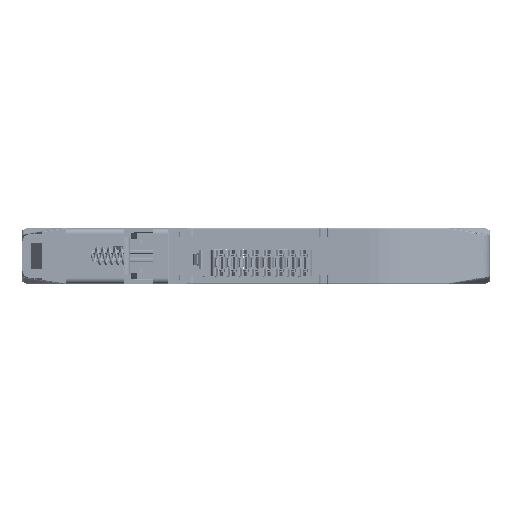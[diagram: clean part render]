
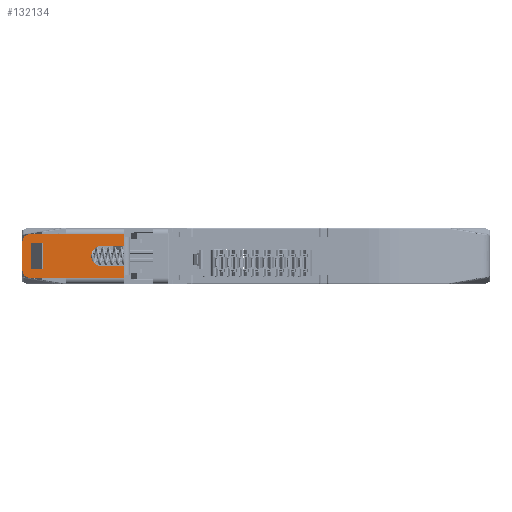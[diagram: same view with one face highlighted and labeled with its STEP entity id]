
A CAD part, front view. The second image highlights one B-rep face of the part: STEP entity #132134.
In plain terms, the highlighted planar face has unit normal (0, -1, 0) as drawn and (0, 0, -1) by its records, which use the part's own axes.
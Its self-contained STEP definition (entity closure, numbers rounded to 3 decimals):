
#130355=DIRECTION('',(-1.,0.,0.));
#130356=VECTOR('',#130355,2.6);
#130357=CARTESIAN_POINT('',(4.4,8.7,0.));
#130358=LINE('',#130357,#130356);
#130359=DIRECTION('',(0.,1.,0.));
#130360=VECTOR('',#130359,5.6);
#130361=CARTESIAN_POINT('',(4.4,3.1,0.));
#130362=LINE('',#130361,#130360);
#130363=DIRECTION('',(1.,0.,0.));
#130364=VECTOR('',#130363,2.6);
#130365=CARTESIAN_POINT('',(1.8,3.1,0.));
#130366=LINE('',#130365,#130364);
#130367=DIRECTION('',(0.,-1.,0.));
#130368=VECTOR('',#130367,5.6);
#130369=CARTESIAN_POINT('',(1.8,8.7,0.));
#130370=LINE('',#130369,#130368);
#130379=DIRECTION('',(0.,1.,0.));
#130380=VECTOR('',#130379,0.15);
#130381=CARTESIAN_POINT('',(21.7,1.2,0.));
#130382=LINE('',#130381,#130380);
#130383=DIRECTION('',(1.,0.,0.));
#130384=VECTOR('',#130383,4.8);
#130385=CARTESIAN_POINT('',(16.9,3.7,0.));
#130386=LINE('',#130385,#130384);
#130387=CARTESIAN_POINT('',(16.9,5.9,0.));
#130388=DIRECTION('',(0.,0.,1.));
#130389=DIRECTION('',(0.,1.,0.));
#130390=AXIS2_PLACEMENT_3D('',#130387,#130388,#130389);
#130392=DIRECTION('',(-1.,0.,0.));
#130393=VECTOR('',#130392,4.8);
#130394=CARTESIAN_POINT('',(21.7,8.1,0.));
#130395=LINE('',#130394,#130393);
#130396=DIRECTION('',(0.,-1.,0.));
#130397=VECTOR('',#130396,0.15);
#130398=CARTESIAN_POINT('',(21.7,10.6,0.));
#130399=LINE('',#130398,#130397);
#130400=DIRECTION('',(0.,-1.,0.));
#130401=VECTOR('',#130400,0.05);
#130402=CARTESIAN_POINT('',(9.4,10.6,0.));
#130403=LINE('',#130402,#130401);
#130404=DIRECTION('',(-1.,0.,0.));
#130405=VECTOR('',#130404,7.9);
#130406=CARTESIAN_POINT('',(9.4,10.55,0.));
#130407=LINE('',#130406,#130405);
#130408=CARTESIAN_POINT('',(1.5,9.05,0.));
#130409=DIRECTION('',(0.,0.,1.));
#130410=DIRECTION('',(0.,1.,0.));
#130411=AXIS2_PLACEMENT_3D('',#130408,#130409,#130410);
#130413=DIRECTION('',(0.,-1.,0.));
#130414=VECTOR('',#130413,6.3);
#130415=CARTESIAN_POINT('',(0.,9.05,0.));
#130416=LINE('',#130415,#130414);
#130417=CARTESIAN_POINT('',(1.5,2.75,0.));
#130418=DIRECTION('',(0.,0.,1.));
#130419=DIRECTION('',(-1.,0.,0.));
#130420=AXIS2_PLACEMENT_3D('',#130417,#130418,#130419);
#130422=DIRECTION('',(1.,0.,0.));
#130423=VECTOR('',#130422,7.9);
#130424=CARTESIAN_POINT('',(1.5,1.25,0.));
#130425=LINE('',#130424,#130423);
#130426=DIRECTION('',(0.,-1.,0.));
#130427=VECTOR('',#130426,0.05);
#130428=CARTESIAN_POINT('',(9.4,1.25,0.));
#130429=LINE('',#130428,#130427);
#130654=DIRECTION('',(1.,0.,0.));
#130655=VECTOR('',#130654,12.3);
#130656=CARTESIAN_POINT('',(9.4,10.6,0.));
#130657=LINE('',#130656,#130655);
#130675=DIRECTION('',(1.,0.,0.));
#130676=VECTOR('',#130675,12.3);
#130677=CARTESIAN_POINT('',(9.4,1.2,0.));
#130678=LINE('',#130677,#130676);
#131140=DIRECTION('',(0.,-1.,0.));
#131141=VECTOR('',#131140,2.35);
#131142=CARTESIAN_POINT('',(21.7,3.7,0.));
#131143=LINE('',#131142,#131141);
#131158=DIRECTION('',(0.,-1.,0.));
#131159=VECTOR('',#131158,2.35);
#131160=CARTESIAN_POINT('',(21.7,10.45,0.));
#131161=LINE('',#131160,#131159);
#131513=CARTESIAN_POINT('',(0.,2.75,0.));
#131514=CARTESIAN_POINT('',(1.5,1.25,0.));
#131515=VERTEX_POINT('',#131513);
#131516=VERTEX_POINT('',#131514);
#131517=CARTESIAN_POINT('',(9.4,1.25,0.));
#131518=VERTEX_POINT('',#131517);
#131519=CARTESIAN_POINT('',(9.4,10.55,0.));
#131520=CARTESIAN_POINT('',(1.5,10.55,0.));
#131521=VERTEX_POINT('',#131519);
#131522=VERTEX_POINT('',#131520);
#131523=CARTESIAN_POINT('',(0.,9.05,0.));
#131524=VERTEX_POINT('',#131523);
#131537=CARTESIAN_POINT('',(9.4,1.2,0.));
#131538=VERTEX_POINT('',#131537);
#131722=CARTESIAN_POINT('',(9.4,10.6,0.));
#131724=VERTEX_POINT('',#131722);
#131753=CARTESIAN_POINT('',(4.4,8.7,0.));
#131754=CARTESIAN_POINT('',(1.8,8.7,0.));
#131755=VERTEX_POINT('',#131753);
#131756=VERTEX_POINT('',#131754);
#131757=CARTESIAN_POINT('',(1.8,3.1,0.));
#131758=VERTEX_POINT('',#131757);
#131759=CARTESIAN_POINT('',(4.4,3.1,0.));
#131760=VERTEX_POINT('',#131759);
#131761=CARTESIAN_POINT('',(21.7,8.1,0.));
#131762=CARTESIAN_POINT('',(16.9,8.1,0.));
#131763=VERTEX_POINT('',#131761);
#131764=VERTEX_POINT('',#131762);
#131765=CARTESIAN_POINT('',(16.9,3.7,0.));
#131766=VERTEX_POINT('',#131765);
#131767=CARTESIAN_POINT('',(21.7,3.7,0.));
#131768=VERTEX_POINT('',#131767);
#131801=CARTESIAN_POINT('',(21.7,1.2,0.));
#131802=VERTEX_POINT('',#131801);
#131813=CARTESIAN_POINT('',(21.7,10.6,0.));
#131814=VERTEX_POINT('',#131813);
#131849=CARTESIAN_POINT('',(21.7,1.35,0.));
#131850=VERTEX_POINT('',#131849);
#131851=CARTESIAN_POINT('',(21.7,10.45,0.));
#131852=VERTEX_POINT('',#131851);
#132085=CARTESIAN_POINT('',(0.,0.,0.));
#132086=DIRECTION('',(0.,0.,1.));
#132087=DIRECTION('',(1.,0.,0.));
#132088=AXIS2_PLACEMENT_3D('',#132085,#132086,#132087);
#132089=PLANE('',#132088);
#132091=ORIENTED_EDGE('',*,*,#132090,.T.);
#132093=ORIENTED_EDGE('',*,*,#132092,.F.);
#132095=ORIENTED_EDGE('',*,*,#132094,.F.);
#132097=ORIENTED_EDGE('',*,*,#132096,.F.);
#132099=ORIENTED_EDGE('',*,*,#132098,.F.);
#132101=ORIENTED_EDGE('',*,*,#132100,.F.);
#132103=ORIENTED_EDGE('',*,*,#132102,.F.);
#132105=ORIENTED_EDGE('',*,*,#132104,.F.);
#132107=ORIENTED_EDGE('',*,*,#132106,.T.);
#132109=ORIENTED_EDGE('',*,*,#132108,.T.);
#132111=ORIENTED_EDGE('',*,*,#132110,.T.);
#132113=ORIENTED_EDGE('',*,*,#132112,.T.);
#132115=ORIENTED_EDGE('',*,*,#132114,.T.);
#132117=ORIENTED_EDGE('',*,*,#132116,.T.);
#132119=ORIENTED_EDGE('',*,*,#132118,.T.);
#132121=ORIENTED_EDGE('',*,*,#132120,.T.);
#132122=EDGE_LOOP('',(#132091,#132093,#132095,#132097,#132099,#132101,#132103,
#132105,#132107,#132109,#132111,#132113,#132115,#132117,#132119,#132121));
#132123=FACE_OUTER_BOUND('',#132122,.F.);
#132125=ORIENTED_EDGE('',*,*,#132124,.F.);
#132127=ORIENTED_EDGE('',*,*,#132126,.F.);
#132129=ORIENTED_EDGE('',*,*,#132128,.F.);
#132131=ORIENTED_EDGE('',*,*,#132130,.F.);
#132132=EDGE_LOOP('',(#132125,#132127,#132129,#132131));
#132133=FACE_BOUND('',#132132,.F.);
#132134=ADVANCED_FACE('',(#132123,#132133),#132089,.F.);
#130391=CIRCLE('',#130390,2.2);
#130412=CIRCLE('',#130411,1.5);
#130421=CIRCLE('',#130420,1.5);
#132090=EDGE_CURVE('',#131802,#131850,#130382,.T.);
#132092=EDGE_CURVE('',#131768,#131850,#131143,.T.);
#132094=EDGE_CURVE('',#131766,#131768,#130386,.T.);
#132096=EDGE_CURVE('',#131764,#131766,#130391,.T.);
#132098=EDGE_CURVE('',#131763,#131764,#130395,.T.);
#132100=EDGE_CURVE('',#131852,#131763,#131161,.T.);
#132102=EDGE_CURVE('',#131814,#131852,#130399,.T.);
#132104=EDGE_CURVE('',#131724,#131814,#130657,.T.);
#132106=EDGE_CURVE('',#131724,#131521,#130403,.T.);
#132108=EDGE_CURVE('',#131521,#131522,#130407,.T.);
#132110=EDGE_CURVE('',#131522,#131524,#130412,.T.);
#132112=EDGE_CURVE('',#131524,#131515,#130416,.T.);
#132114=EDGE_CURVE('',#131515,#131516,#130421,.T.);
#132116=EDGE_CURVE('',#131516,#131518,#130425,.T.);
#132118=EDGE_CURVE('',#131518,#131538,#130429,.T.);
#132120=EDGE_CURVE('',#131538,#131802,#130678,.T.);
#132124=EDGE_CURVE('',#131755,#131756,#130358,.T.);
#132126=EDGE_CURVE('',#131760,#131755,#130362,.T.);
#132128=EDGE_CURVE('',#131758,#131760,#130366,.T.);
#132130=EDGE_CURVE('',#131756,#131758,#130370,.T.);
